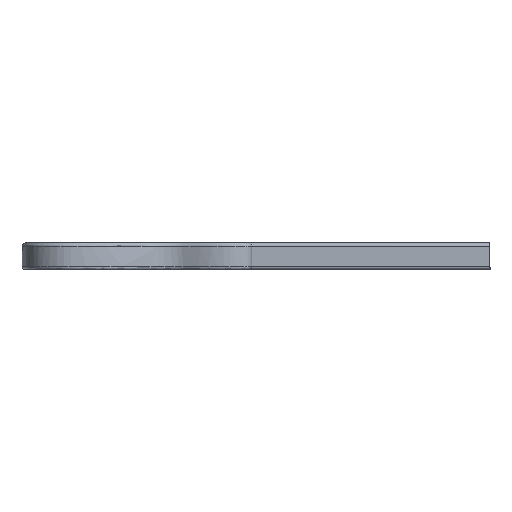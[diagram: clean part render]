
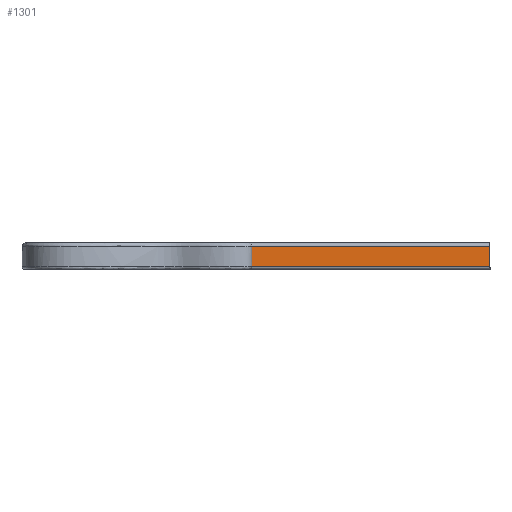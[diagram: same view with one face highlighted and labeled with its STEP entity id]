
A CAD part, left-side view. The second image highlights one B-rep face of the part: STEP entity #1301.
In plain terms, the highlighted planar face has unit normal (-1, -0.013, 0).
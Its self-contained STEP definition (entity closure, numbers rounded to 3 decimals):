
#194=FACE_OUTER_BOUND('',#281,.T.);
#281=EDGE_LOOP('',(#1169,#1170,#1171,#1172));
#397=LINE('',#8915,#512);
#398=LINE('',#8921,#513);
#399=LINE('',#8922,#514);
#400=LINE('',#8923,#515);
#512=VECTOR('',#1807,443.878);
#513=VECTOR('',#1814,443.878);
#514=VECTOR('',#1815,33.782);
#515=VECTOR('',#1816,33.782);
#640=VERTEX_POINT('',#8913);
#641=VERTEX_POINT('',#8914);
#642=VERTEX_POINT('',#8919);
#643=VERTEX_POINT('',#8920);
#817=EDGE_CURVE('',#640,#641,#397,.T.);
#820=EDGE_CURVE('',#642,#643,#398,.T.);
#821=EDGE_CURVE('',#642,#641,#399,.T.);
#822=EDGE_CURVE('',#643,#640,#400,.T.);
#1169=ORIENTED_EDGE('',*,*,#820,.F.);
#1170=ORIENTED_EDGE('',*,*,#821,.T.);
#1171=ORIENTED_EDGE('',*,*,#817,.F.);
#1172=ORIENTED_EDGE('',*,*,#822,.F.);
#1234=PLANE('',#1446);
#1301=ADVANCED_FACE('',(#194),#1234,.F.);
#1446=AXIS2_PLACEMENT_3D('',#8918,#1812,#1813);
#1807=DIRECTION('',(0.013,-1.,0.));
#1812=DIRECTION('center_axis',(1.,0.013,0.));
#1813=DIRECTION('ref_axis',(-0.013,1.,0.));
#1814=DIRECTION('',(-0.013,1.,0.));
#1815=DIRECTION('',(0.,0.,1.));
#1816=DIRECTION('',(0.,0.,1.));
#8913=CARTESIAN_POINT('',(-27.996,-203.861,-6.35));
#8914=CARTESIAN_POINT('',(-22.173,-647.701,-6.35));
#8915=CARTESIAN_POINT('',(-27.996,-203.861,-6.35));
#8918=CARTESIAN_POINT('Origin',(-22.173,-647.701,-48.895));
#8919=CARTESIAN_POINT('',(-22.173,-647.701,-40.132));
#8920=CARTESIAN_POINT('',(-27.996,-203.861,-40.132));
#8921=CARTESIAN_POINT('',(-22.173,-647.701,-40.132));
#8922=CARTESIAN_POINT('',(-22.173,-647.701,-40.132));
#8923=CARTESIAN_POINT('',(-27.996,-203.861,-40.132));
